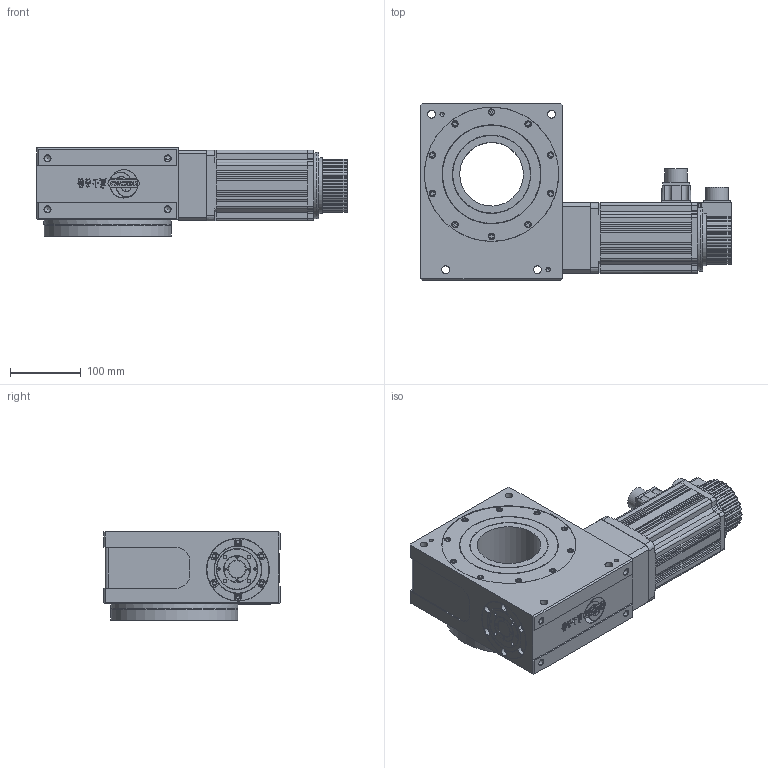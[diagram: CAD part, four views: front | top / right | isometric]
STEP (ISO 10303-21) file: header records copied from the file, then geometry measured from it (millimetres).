
FILE_DESCRIPTION(/* description */ (''),/* implementation_level */ '2;1');
FILE_NAME(/* name */ 'RA90-20R.prt.stp',/* time_stamp */ '2024-08-13T16:05:59+08:00',/* author */ (''),/* organization */ (''),/* preprocessor_version */ 'ST-DEVELOPER v16',/* originating_system */ 'SIEMENS PLM Software NX 10.0',/* authorisation */ '');
FILE_SCHEMA (('CONFIG_CONTROL_DESIGN'));
Products named in the file (1): RA90-20R
Bounding box: 439 x 250 x 125 mm (x, y, z)
Volume: 6370186.9 mm3; surface area: 542304.3 mm2
Topology: 3 solids, 61 shells, 3194 faces, 8343 edges, 5418 vertices
Faces by surface type: plane 1876, cylinder 577, bspline 367, extrusion 185, cone 176, torus 13
Full cylindrical faces by diameter (mm): 2.5 x4, 3 x4, 3.5 x5, 5 x33, 5.1 x8, 6 x14, 6.6 x6, 6.8 x40, 8 x2, 8.5 x14, 9 x18, 10 x12, 11 x32, 12 x2, 17 x4, 19 x1, 22 x1, 24.5 x1, 24.98 x1, 25 x2, 26 x1, 26.88 x2, 29.5 x1, 30 x1, 31.75 x2, 33 x2, 38 x3, 42 x3, 47 x5, 58 x4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
Entity records: 112431 total; most frequent: CARTESIAN_POINT 39397, ORIENTED_EDGE 15416, DIRECTION 13282, EDGE_CURVE 7708, VERTEX_POINT 5219, VECTOR 4764, LINE 4579, AXIS2_PLACEMENT_3D 4259
